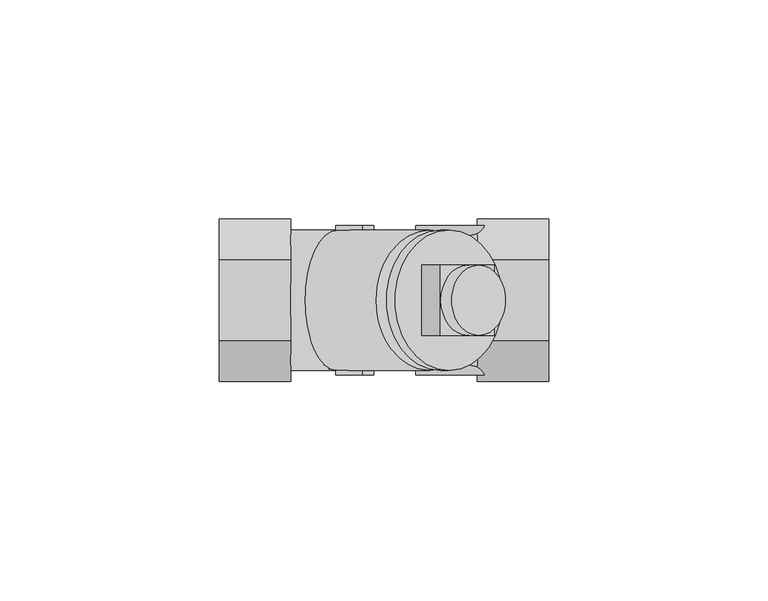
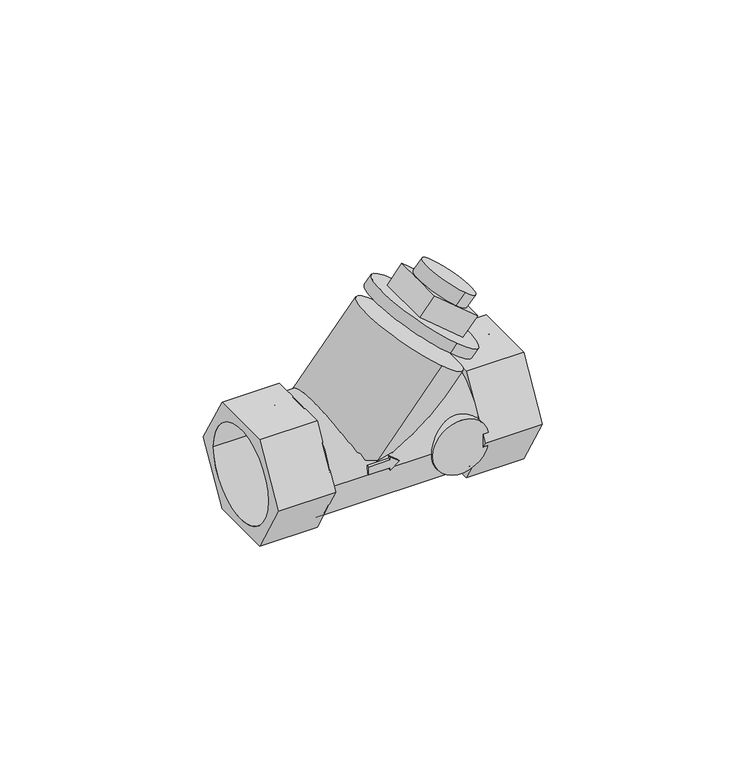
"""IFC4 building model written with IfcOpenShell, lengths in millimetres: valve geometry, 400_5-_KOMF_terugslagklep_PN_25_brons_DN15-50 : DN20 3/4''."""

import ifcopenshell
import ifcopenshell.guid

model = None  # the IFC model being written
_history = None  # IfcOwnerHistory: only IFC2X3 demands one
_inside = {}  # id of a spatial element -> (the spatial element, [elements in it])
_under = {}  # id of a project, library or spatial element -> (it, [spatial elements below it])
_declared = {}  # id of a project -> (the project, [libraries it declares])
_typed = {}  # id of a type object -> (the type object, [elements of that type])
_made_of = {}  # id of a material, layer set ... -> (it, [elements and type objects made of it])


def new_model(schema):
    """Start an empty IFC model of exactly this schema.

    Asked for "IFC4X3", IfcOpenShell would pick the latest addendum, in which some entities
    have other attributes; the version numbers below select the first issue.
    IFC2X3 requires an IfcOwnerHistory on every rooted entity: one is made here for all.
    """
    global model, _history
    if schema == "IFC4X3":
        model = ifcopenshell.file(schema_version=(4, 3, 0, 0))
    else:
        model = ifcopenshell.file(schema=schema)
    _inside.clear()
    _under.clear()
    _declared.clear()
    _typed.clear()
    _made_of.clear()
    _history = None
    if model.schema == "IFC2X3":
        org = make("IfcOrganization", Name="unknown")
        user = make(
            "IfcPersonAndOrganization",
            ThePerson=make("IfcPerson", FamilyName="unknown"),
            TheOrganization=org,
        )
        app = make(
            "IfcApplication",
            ApplicationDeveloper=org,
            Version="unknown",
            ApplicationFullName="unknown",
            ApplicationIdentifier="unknown",
        )
        _history = make(
            "IfcOwnerHistory",
            OwningUser=user,
            OwningApplication=app,
            ChangeAction="ADDED",
            CreationDate=0,
        )
    return model


def make(cls, **values):
    """One entity of the class cls with the attributes given. An attribute that is None is left unset."""
    return model.create_entity(
        cls, **{name: value for name, value in values.items() if value is not None}
    )


def rooted(cls, **values):
    """An entity with a GlobalId (a new one), such as an element, a storey or a relation."""
    return make(cls, GlobalId=ifcopenshell.guid.new(), OwnerHistory=_history, **values)


def si_unit(unit_type, name, prefix=None):
    """IfcSIUnit, for example si_unit("LENGTHUNIT", "METRE", prefix="MILLI")."""
    return make("IfcSIUnit", UnitType=unit_type, Prefix=prefix, Name=name)


def assignment(units):
    """IfcUnitAssignment: the units of a project."""
    return None if units is None else make("IfcUnitAssignment", Units=units)


def point(xyz):
    """IfcCartesianPoint."""
    return None if xyz is None else make("IfcCartesianPoint", Coordinates=xyz)


def direction(xyz):
    """IfcDirection."""
    return None if xyz is None else make("IfcDirection", DirectionRatios=xyz)


def frame(location, z_axis=None, x_axis=None):
    """IfcAxis2Placement3D, a coordinate frame: its origin and axes. An axis left out is left unset."""
    return make(
        "IfcAxis2Placement3D",
        Location=point(location),
        Axis=direction(z_axis),
        RefDirection=direction(x_axis),
    )


def frame_2d(location, x_axis=None):
    """IfcAxis2Placement2D, a coordinate frame in the plane: its origin and x axis."""
    return make(
        "IfcAxis2Placement2D", Location=point(location), RefDirection=direction(x_axis)
    )


def origin():
    """The frame at (0, 0, 0) with its axes left unset."""
    return frame((0.0, 0.0, 0.0))


def origin_2d():
    """The frame at (0, 0) in the plane with its x axis left unset."""
    return frame_2d((0.0, 0.0))


def place(relative_to, where):
    """IfcLocalPlacement: puts the frame where relative to a parent placement (None: the world)."""
    return make(
        "IfcLocalPlacement", PlacementRelTo=relative_to, RelativePlacement=where
    )


def context(
    kind, dimensions, precision=None, world=None, true_north=None, identifier=None
):
    """IfcGeometricRepresentationContext, for example the 3D "Model" context."""
    return make(
        "IfcGeometricRepresentationContext",
        ContextIdentifier=identifier,
        ContextType=kind,
        CoordinateSpaceDimension=dimensions,
        Precision=precision,
        WorldCoordinateSystem=world,
        TrueNorth=true_north,
    )


def project(units=None, contexts=None):
    """IfcProject with its units and contexts."""
    return rooted(
        "IfcProject",
        Name="project",
        RepresentationContexts=contexts,
        UnitsInContext=assignment(units),
    )


def spatial(cls, under=None, at=None, **own):
    """A site, building, storey or space (cls), placed at a placement, below another one or the project."""
    s = rooted(cls, ObjectPlacement=at, **own)
    if under is not None:
        _under.setdefault(under.id(), (under, []))[1].append(s)
    return s


def polyline(points):
    """IfcPolyline through the points."""
    return make("IfcPolyline", Points=[point(p) for p in points])


def circle_curve(where, radius):
    """IfcCircle in the frame where."""
    return make("IfcCircle", Position=where, Radius=radius)


def ellipse_curve(where, semi_axis1, semi_axis2):
    """IfcEllipse in the frame where."""
    return make(
        "IfcEllipse", Position=where, SemiAxis1=semi_axis1, SemiAxis2=semi_axis2
    )


def trimmed(basis, trim1, trim2, sense, master):
    """IfcTrimmedCurve: the piece of a basis curve between two trims."""
    return make(
        "IfcTrimmedCurve",
        BasisCurve=basis,
        Trim1=trim1,
        Trim2=trim2,
        SenseAgreement=sense,
        MasterRepresentation=master,
    )


def segment(curve, same_sense, transition):
    """IfcCompositeCurveSegment."""
    return make(
        "IfcCompositeCurveSegment",
        Transition=transition,
        SameSense=same_sense,
        ParentCurve=curve,
    )


def composite_curve(segments, self_intersect=None):
    """IfcCompositeCurve: segments joined end to end."""
    return make("IfcCompositeCurve", Segments=segments, SelfIntersect=self_intersect)


def outline(outer, holes=None, kind="AREA"):
    """IfcArbitraryClosedProfileDef: a profile drawn as a closed curve; with holes, ...WithVoids."""
    if holes is None:
        return make("IfcArbitraryClosedProfileDef", ProfileType=kind, OuterCurve=outer)
    return make(
        "IfcArbitraryProfileDefWithVoids",
        ProfileType=kind,
        OuterCurve=outer,
        InnerCurves=holes,
    )


def extrude(swept, where, along, depth):
    """IfcExtrudedAreaSolid: the profile swept, set in the frame where, extruded along a direction by depth."""
    return make(
        "IfcExtrudedAreaSolid",
        SweptArea=swept,
        Position=where,
        ExtrudedDirection=direction(along),
        Depth=depth,
    )


def shape(context_of_items, identifier, shape_type, items):
    """IfcShapeRepresentation: the items that make up one representation, for example the "Body"."""
    return make(
        "IfcShapeRepresentation",
        ContextOfItems=context_of_items,
        RepresentationIdentifier=identifier,
        RepresentationType=shape_type,
        Items=items,
    )


def source(mapping_origin, context_of_items, identifier, shape_type, items):
    """IfcRepresentationMap: a shape defined once, which mapped items show again and again."""
    return make(
        "IfcRepresentationMap",
        MappingOrigin=mapping_origin,
        MappedRepresentation=shape(context_of_items, identifier, shape_type, items),
    )


def transform(
    local_origin,
    x_axis=None,
    y_axis=None,
    z_axis=None,
    scale=None,
    scale2=None,
    scale3=None,
    uniform=True,
):
    """IfcCartesianTransformationOperator3D, or its non-uniform kind. x_axis, y_axis, z_axis: its Axis1, 2, 3."""
    if uniform:
        return make(
            "IfcCartesianTransformationOperator3D",
            Axis1=direction(x_axis),
            Axis2=direction(y_axis),
            LocalOrigin=point(local_origin),
            Scale=scale,
            Axis3=direction(z_axis),
        )
    return make(
        "IfcCartesianTransformationOperator3DnonUniform",
        Axis1=direction(x_axis),
        Axis2=direction(y_axis),
        LocalOrigin=point(local_origin),
        Scale=scale,
        Axis3=direction(z_axis),
        Scale2=scale2,
        Scale3=scale3,
    )


def mapped(mapping_source, mapping_target):
    """IfcMappedItem: shows the shape of a source again, moved by a transform."""
    return make(
        "IfcMappedItem", MappingSource=mapping_source, MappingTarget=mapping_target
    )


def made_of(thing, what):
    """Note that an element or type object is made of a material, layer set ...; save() writes the relation."""
    if what is not None:
        _made_of.setdefault(what.id(), (what, []))[1].append(thing)
    return thing


def element(
    cls,
    number,
    at=None,
    inside=None,
    cuts=None,
    type_object=None,
    material=None,
    context=None,
    identifier="Body",
    shape_type=None,
    held_by="IfcProductDefinitionShape",
    body=None,
    shapes=None,
    **own,
):
    """One element of the class cls, such as IfcWall. Its Tag is "e" and its number.

    at: its placement. inside: the storey or other place that contains it. cuts: it is an
    opening in that element (IfcRelVoidsElement). A single representation is given by context,
    identifier, shape_type and body (its items); several are given by shapes. held_by: the class
    of the entity that holds the representations. save() writes the other relations.
    """
    e = rooted(cls, Tag="e%d" % number, ObjectPlacement=at, **own)
    if body is not None:
        shapes = [shape(context, identifier, shape_type, body)]
    if shapes is not None:
        e.Representation = make(held_by, Representations=shapes)
    if inside is not None:
        _inside.setdefault(inside.id(), (inside, []))[1].append(e)
    if cuts is not None:
        rooted(
            "IfcRelVoidsElement", RelatingBuildingElement=cuts, RelatedOpeningElement=e
        )
    if type_object is not None:
        _typed.setdefault(type_object.id(), (type_object, []))[1].append(e)
    return made_of(e, material)


def aggregate(whole, parts):
    """IfcRelAggregates: a whole, such as a stair, and the parts it consists of."""
    return rooted("IfcRelAggregates", RelatingObject=whole, RelatedObjects=parts)


def save(model, path):
    """Write the relations noted so far, then the file.

    IfcRelAggregates (storeys below a building ...), IfcRelContainedInSpatialStructure (elements
    in a storey), IfcRelDefinesByType, IfcRelAssociatesMaterial and IfcRelDeclares: one each for
    every whole, place, type object, material and project.
    """
    for whole, parts in _under.values():
        aggregate(whole, parts)
    for where, things in _inside.values():
        rooted(
            "IfcRelContainedInSpatialStructure",
            RelatedElements=things,
            RelatingStructure=where,
        )
    for kind, things in _typed.values():
        rooted("IfcRelDefinesByType", RelatedObjects=things, RelatingType=kind)
    for what, things in _made_of.values():
        rooted("IfcRelAssociatesMaterial", RelatedObjects=things, RelatingMaterial=what)
    for by, libraries in _declared.values():
        rooted("IfcRelDeclares", RelatingContext=by, RelatedDefinitions=libraries)
    model.write(path)


def plane_surface(at):
    """IfcPlane: the flat surface through the origin of the frame at, square to its z axis."""
    return make("IfcPlane", Position=at)


def cylinder_surface(at, radius):
    """IfcCylindricalSurface: all points at the distance radius from the z axis of the frame at."""
    return make("IfcCylindricalSurface", Position=at, Radius=radius)


def revolved_surface(curve, axis_point, axis_direction):
    """IfcSurfaceOfRevolution: the curve turned about the line through axis_point along axis_direction."""
    return make(
        "IfcSurfaceOfRevolution",
        SweptCurve=make("IfcArbitraryOpenProfileDef", ProfileType="CURVE", Curve=curve),
        AxisPosition=make("IfcAxis1Placement", Location=point(axis_point), Axis=direction(axis_direction)),
    )


def advanced_brep(points, edges, surfaces, faces):
    """IfcAdvancedBrep: a solid bounded by faces that lie on surfaces and meet in shared edges.

    An edge is (start, end): straight between two places in points (the first is 0);
    or (start, end, curve); or (start, end, curve, False) where it runs against its curve.
    A face is (place in surfaces, loops), or (place, loops, False) where it looks against
    its surface's normal. A loop lists edges by number (the first is 1), with a minus sign
    where the edge is run from its end to its start. The first loop is the outer one.
    """
    corners = [point(p) for p in points]
    vertices = [make("IfcVertexPoint", VertexGeometry=c) for c in corners]
    made = []
    for start, end, *more in edges:
        made.append(
            make(
                "IfcEdgeCurve",
                EdgeStart=vertices[start],
                EdgeEnd=vertices[end],
                EdgeGeometry=more[0] if more else make("IfcPolyline", Points=[corners[start], corners[end]]),
                SameSense=more[1] if len(more) > 1 else True,
            )
        )
    hull = []
    for where, loops, *sense in faces:
        bounds = []
        for j, loop in enumerate(loops):
            ring = [make("IfcOrientedEdge", EdgeElement=made[abs(k) - 1], Orientation=k > 0) for k in loop]
            bounds.append(
                make(
                    "IfcFaceOuterBound" if j == 0 else "IfcFaceBound",
                    Bound=make("IfcEdgeLoop", EdgeList=ring),
                    Orientation=True,
                )
            )
        hull.append(make("IfcAdvancedFace", Bounds=bounds, FaceSurface=surfaces[where], SameSense=sense[0] if sense else True))
    return make("IfcAdvancedBrep", Outer=make("IfcClosedShell", CfsFaces=hull))


def valve_c4cabec5(model_context):
    return source(origin(), model_context, "Body", "SolidModel", [
        extrude(outline(composite_curve([segment(trimmed(circle_curve(origin_2d(), 16.0), [point((-16.0, 0.0))], [point((16.0, 0.0))], False, "CARTESIAN"), True, "CONTINUOUS"), segment(trimmed(circle_curve(origin_2d(), 16.0), [point((16.0, 0.0))], [point((-16.0, 0.0))], False, "CARTESIAN"), True, "CONTINUOUS")], self_intersect=False)), frame((-29.6929699, 0.0, 0.0), z_axis=(1.0, 0.0, 0.0), x_axis=(0.0, 1.0, 0.0)), (0.0, 0.0, 1.0), 42.3929669),
        extrude(outline(composite_curve([segment(trimmed(circle_curve(frame_2d((0.0, 6.699997)), 8.0), [point((0.0, -1.300003))], [point((0.0, 14.699997))], False, "CARTESIAN"), True, "CONTINUOUS"), segment(trimmed(circle_curve(frame_2d((0.0, 6.699997)), 8.0), [point((0.0, 14.699997))], [point((0.0, -1.300003))], False, "CARTESIAN"), True, "CONTINUOUS")], self_intersect=False)), frame((0.0, -17.0, 0.0), z_axis=(0.0, 1.0, 0.0), x_axis=(0.0, 0.0, 1.0)), (0.0, 0.0, 1.0), 34.0),
        advanced_brep(
        [(-29.6929699, -9.2376043, 16.0), (-29.6929699, -13.8564065, 8.0), (-29.6929699, -18.4752086, 0.0), (-29.6929699, -13.8564065, -8.0), (-29.6929699, -9.2376043, -16.0), (-29.6929699, 0.0, -16.0), (-29.6929699, 9.2376043, -16.0), (-29.6929699, 13.8564065, -8.0), (-29.6929699, 18.4752086, 0.0), (-29.6929699, 13.8564065, 8.0), (-29.6929699, 9.2376043, 16.0), (-29.6929699, 0.0, 16.0), (-29.6929699, 8.7735674, 8.600501), (-29.6929699, -8.7735674, 8.600501), (-46.000003, -9.2376043, 16.0), (-46.000003, 9.2376043, 16.0), (-46.000003, 18.4752086, 0.0), (-46.000003, 9.2376043, -16.0), (-46.000003, -9.2376043, -16.0), (-46.000003, -18.4752086, 0.0), (-46.000003, -13.45, 0.0), (-46.000003, 13.45, 0.0), (-31.700003, -13.45, 0.0), (-31.700003, 13.45, 0.0), (28.999997, -9.2376043, 16.0), (28.999997, -18.4752086, 0.0), (28.999997, -9.2376043, -16.0), (28.999997, 9.2376043, -16.0), (28.999997, 18.4752086, 0.0), (28.999997, 9.2376043, 16.0), (28.999997, 13.45, 0.0), (28.999997, -13.45, 0.0), (12.699997, 7.0996443, 16.0), (12.699997, 9.2376043, 16.0), (12.699997, 13.8564065, 8.0), (12.699997, 18.4752086, 0.0), (12.699997, 13.8564065, -8.0), (12.699997, 9.2376043, -16.0), (12.699997, 0.0, -16.0), (12.699997, -9.2376043, -16.0), (12.699997, -13.8564065, -8.0), (12.699997, -18.4752086, 0.0), (12.699997, -13.8564065, 8.0), (12.699997, -9.2376043, 16.0), (12.699997, -7.0996443, 16.0), (12.699997, -5.5982156, 14.9886618), (12.699997, 5.5982156, 14.9886618), (19.0210573, -9.2376043, 16.0), (13.1219877, -9.2376043, 16.0), (13.1219877, 9.2376043, 16.0), (19.0210573, 9.2376043, 16.0), (13.1219877, 6.4054791, 16.0), (13.1219877, -6.4054791, 16.0), (-19.4432919, -17.0, 3.1116273), (-19.4432919, -17.0, 0.829442), (-13.3015613, -17.0, 0.829442), (-13.3015613, -17.0, 0.0332575), (-10.8483948, -17.0, 1.9705347), (-13.3015613, -17.0, 3.9078118), (-13.3015613, -17.0, 3.1116273), (-19.4432919, 17.0, 3.1116273), (-13.3015613, 17.0, 3.1116273), (-13.3015613, 17.0, 3.9078118), (-10.8483948, 17.0, 1.9705347), (-13.3015613, 17.0, 0.0332575), (-13.3015613, 17.0, 0.829442), (-19.4432919, 17.0, 0.829442), (-19.4432919, -15.8744933, 3.1116273), (-19.4432919, -15.9911146, 0.829442), (-19.4432919, 15.9911146, 0.829442), (-19.4432919, 15.8744933, 3.1116273), (-18.7473074, -16.0, 0.829442), (-17.6645478, -15.9784863, 0.829442), (-13.3015613, -15.4465872, 0.829442), (-13.3015613, -15.9784863, 0.829442), (-13.3015613, 15.9784863, 0.829442), (-13.3015613, 15.4465872, 0.829442), (-17.6645478, 15.9784863, 0.829442), (-18.7473074, 16.0, 0.829442), (-13.3015613, -15.2991893, 0.0332575), (-13.3015613, -15.9999654, 0.0332575), (-13.3015613, 15.9999654, 0.0332575), (-13.3015613, 15.2991893, 0.0332575), (-10.8483948, -15.0905551, 1.9705347), (-10.8483948, -15.8781924, 1.9705347), (-10.8483948, 15.8781924, 1.9705347), (-10.8483948, 15.0905551, 1.9705347), (-12.4704582, -15.6661367, 3.2514858), (-13.3015613, -15.849006, 3.9078118), (-13.3015613, 15.849006, 3.9078118), (-12.4704582, 15.6661367, 3.2514858), (-13.3015613, -15.7697328, 3.1116273), (-13.3015613, 15.7697328, 3.1116273), (-16.8323266, -16.0, 3.1116273), (-16.8323266, 16.0, 3.1116273), (-19.4432919, -16.0, 0.0), (1.8903592, -16.0, 25.4244553), (1.7150024, -15.9983624, 25.5715972), (1.7150024, 15.9983624, 25.5715972), (1.8903592, 16.0, 25.4244553), (-19.4432919, 16.0, 0.0), (14.699997, -13.45, 0.0), (14.699997, 13.45, 0.0)],
        [
            (0, 1),
            (1, 2),
            (2, 3),
            (3, 4),
            (4, 5),
            (5, 6),
            (6, 7),
            (7, 8),
            (8, 9),
            (9, 10),
            (10, 11),
            (11, 0),
            (12, 13),
            (13, 12, ellipse_curve(frame((-29.6929699, 0.0, -12.2150905), z_axis=(-1.0, 0.0, 0.0), x_axis=(0.0, 0.0, 0.9999999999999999)), 24.8915812, 16.0)),
            (14, 15),
            (15, 16),
            (16, 17),
            (17, 18),
            (18, 19),
            (19, 14),
            (20, 21, circle_curve(frame((-46.000003, 0.0, 0.0), z_axis=(1.0, 0.0, 0.0), x_axis=(0.0, 1.0, 0.0)), 13.45)),
            (21, 20, circle_curve(frame((-46.000003, 0.0, 0.0), z_axis=(1.0, 0.0, 0.0), x_axis=(0.0, 1.0, 0.0)), 13.45)),
            (19, 2),
            (0, 14),
            (18, 4),
            (17, 6),
            (16, 8),
            (15, 10),
            (22, 23, circle_curve(frame((-31.700003, 0.0, 0.0), z_axis=(-1.0, 0.0, 0.0), x_axis=(0.0, 1.0, 0.0)), 13.45)),
            (23, 22, circle_curve(frame((-31.700003, 0.0, 0.0), z_axis=(-1.0, 0.0, 0.0), x_axis=(0.0, 1.0, 0.0)), 13.45)),
            (24, 25),
            (25, 26),
            (26, 27),
            (27, 28),
            (28, 29),
            (29, 24),
            (30, 31, circle_curve(frame((28.999997, 0.0, 0.0), z_axis=(-1.0, 0.0, 0.0), x_axis=(0.0, 1.0, 0.0)), 13.45)),
            (31, 30, circle_curve(frame((28.999997, 0.0, 0.0), z_axis=(-1.0, 0.0, 0.0), x_axis=(0.0, 1.0, 0.0)), 13.45)),
            (32, 33),
            (33, 34),
            (34, 35),
            (35, 36),
            (36, 37),
            (37, 38),
            (38, 39),
            (39, 40),
            (40, 41),
            (41, 42),
            (42, 43),
            (43, 44),
            (44, 45, ellipse_curve(frame((12.699997, 0.0, 38.30688), z_axis=(1.0, 0.0, 0.0), x_axis=(0.0, 0.0, 0.9999999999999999)), 24.8915812, 16.0)),
            (45, 46, ellipse_curve(frame((12.699997, 0.0, 38.30688), z_axis=(1.0, 0.0, 0.0), x_axis=(0.0, 0.0, 0.9999999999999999)), 24.8915812, 16.0)),
            (46, 32, ellipse_curve(frame((12.699997, 0.0, 38.30688), z_axis=(1.0, 0.0, 0.0), x_axis=(0.0, 0.0, 0.9999999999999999)), 24.8915812, 16.0)),
            (24, 47),
            (47, 48),
            (48, 43),
            (41, 25),
            (39, 26),
            (37, 27),
            (35, 28),
            (33, 49),
            (49, 50),
            (50, 29),
            (32, 51, ellipse_curve(frame((-6.0176978, 0.0, 16.0), z_axis=(0.0, 0.0, -1.0), x_axis=(1.0, 0.0, 0.0)), 20.8865166, 16.0)),
            (51, 52),
            (52, 44, ellipse_curve(frame((-6.0176978, 0.0, 16.0), z_axis=(0.0, 0.0, -1.0), x_axis=(1.0, 0.0, 0.0)), 20.8865166, 16.0)),
            (53, 54),
            (54, 55),
            (55, 56),
            (56, 57),
            (57, 58),
            (58, 59),
            (59, 53),
            (60, 61),
            (61, 62),
            (62, 63),
            (63, 64),
            (64, 65),
            (65, 66),
            (66, 60),
            (53, 67),
            (67, 68, ellipse_curve(frame((-19.4432919, 0.0, 0.0), z_axis=(1.0, 0.0, 0.0), x_axis=(0.0, 0.0, 0.9999999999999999)), 24.8915812, 16.0)),
            (68, 54),
            (66, 69),
            (69, 70, ellipse_curve(frame((-19.4432919, 0.0, 0.0), z_axis=(1.0, 0.0, 0.0), x_axis=(0.0, 0.0, 0.9999999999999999)), 24.8915812, 16.0)),
            (70, 60),
            (68, 71, ellipse_curve(frame((-18.7473074, 0.0, 0.829442), z_axis=(0.0, 0.0, 1.0), x_axis=(1.0, 0.0, 0.0)), 20.8865166, 16.0)),
            (71, 72, ellipse_curve(frame((-18.7473074, 0.0, 0.829442), z_axis=(0.0, 0.0, 1.0), x_axis=(1.0, 0.0, 0.0)), 20.8865166, 16.0)),
            (72, 73, ellipse_curve(frame((-18.7473074, 0.0, 0.829442), z_axis=(0.0, 0.0, 1.0), x_axis=(1.0, 0.0, 0.0)), 20.8865166, 16.0)),
            (73, 74),
            (74, 55),
            (65, 75),
            (75, 76),
            (76, 77, ellipse_curve(frame((-18.7473074, 0.0, 0.829442), z_axis=(0.0, 0.0, 1.0), x_axis=(1.0, 0.0, 0.0)), 20.8865166, 16.0)),
            (77, 78, ellipse_curve(frame((-18.7473074, 0.0, 0.829442), z_axis=(0.0, 0.0, 1.0), x_axis=(1.0, 0.0, 0.0)), 20.8865166, 16.0)),
            (78, 69, ellipse_curve(frame((-18.7473074, 0.0, 0.829442), z_axis=(0.0, 0.0, 1.0), x_axis=(1.0, 0.0, 0.0)), 20.8865166, 16.0)),
            (73, 79, ellipse_curve(frame((-13.3015613, 0.0, 7.3194295), z_axis=(1.0, 0.0, 0.0), x_axis=(0.0, 0.0, 0.9999999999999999)), 24.8915812, 16.0)),
            (79, 80),
            (80, 56),
            (64, 81),
            (81, 82),
            (82, 76, ellipse_curve(frame((-13.3015613, 0.0, 7.3194295), z_axis=(1.0, 0.0, 0.0), x_axis=(0.0, 0.0, 0.9999999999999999)), 24.8915812, 16.0)),
            (79, 83, ellipse_curve(frame((-31.4241631, 0.0, -14.2782463), z_axis=(-0.6197559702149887, 0.0, 0.7847945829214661), x_axis=(0.7847945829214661, 0.0, 0.6197559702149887)), 78.8892121, 16.0)),
            (83, 84),
            (84, 57),
            (63, 85),
            (85, 86),
            (86, 82, ellipse_curve(frame((-31.4241631, 0.0, -14.2782463), z_axis=(-0.6197559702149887, 0.0, 0.7847945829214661), x_axis=(0.7847945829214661, 0.0, 0.6197559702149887)), 78.8892121, 16.0)),
            (83, 87, ellipse_curve(frame((-15.0233325, 0.0, 5.2675026), z_axis=(-0.6197559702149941, 0.0, -0.784794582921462), x_axis=(0.7847945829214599, 0.0, -0.6197559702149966)), 16.0070593, 16.0)),
            (87, 88, ellipse_curve(frame((-15.0233325, 0.0, 5.2675026), z_axis=(-0.6197559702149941, 0.0, -0.784794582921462), x_axis=(0.7847945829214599, 0.0, -0.6197559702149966)), 16.0070593, 16.0)),
            (88, 58),
            (62, 89),
            (89, 90, ellipse_curve(frame((-15.0233325, 0.0, 5.2675026), z_axis=(-0.6197559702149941, 0.0, -0.784794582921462), x_axis=(0.7847945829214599, 0.0, -0.6197559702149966)), 16.0070593, 16.0)),
            (90, 86, ellipse_curve(frame((-15.0233325, 0.0, 5.2675026), z_axis=(-0.6197559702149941, 0.0, -0.784794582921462), x_axis=(0.7847945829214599, 0.0, -0.6197559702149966)), 16.0070593, 16.0)),
            (88, 91, ellipse_curve(frame((-13.3015613, 0.0, 7.3194295), z_axis=(1.0, 0.0, 0.0), x_axis=(0.0, 0.0, 0.9999999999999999)), 24.8915812, 16.0)),
            (91, 59),
            (61, 92),
            (92, 89, ellipse_curve(frame((-13.3015613, 0.0, 7.3194295), z_axis=(1.0, 0.0, 0.0), x_axis=(0.0, 0.0, 0.9999999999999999)), 24.8915812, 16.0)),
            (91, 93, ellipse_curve(frame((-16.8323266, 0.0, 3.1116273), z_axis=(0.0, 0.0, -1.0), x_axis=(1.0, 0.0, 0.0)), 20.8865166, 16.0)),
            (93, 67, ellipse_curve(frame((-16.8323266, 0.0, 3.1116273), z_axis=(0.0, 0.0, -1.0), x_axis=(1.0, 0.0, 0.0)), 20.8865166, 16.0)),
            (70, 94, ellipse_curve(frame((-16.8323266, 0.0, 3.1116273), z_axis=(0.0, 0.0, -1.0), x_axis=(1.0, 0.0, 0.0)), 20.8865166, 16.0)),
            (94, 92, ellipse_curve(frame((-16.8323266, 0.0, 3.1116273), z_axis=(0.0, 0.0, -1.0), x_axis=(1.0, 0.0, 0.0)), 20.8865166, 16.0)),
            (13, 95, circle_curve(frame((-19.4432919, 0.0, 0.0), z_axis=(0.6427876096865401, 0.0, 0.7660444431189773), x_axis=(0.0, -1.0, 0.0)), 16.0)),
            (95, 71),
            (93, 96),
            (96, 97, circle_curve(frame((1.8903592, 0.0, 25.4244553), z_axis=(-0.6427876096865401, 0.0, -0.7660444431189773), x_axis=(0.0, -1.0, 0.0)), 16.0)),
            (97, 98, circle_curve(frame((1.8903592, 0.0, 25.4244553), z_axis=(-0.6427876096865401, 0.0, -0.7660444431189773), x_axis=(0.0, -1.0, 0.0)), 16.0)),
            (98, 99, circle_curve(frame((1.8903592, 0.0, 25.4244553), z_axis=(-0.6427876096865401, 0.0, -0.7660444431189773), x_axis=(0.0, -1.0, 0.0)), 16.0)),
            (99, 94),
            (78, 100),
            (100, 12, circle_curve(frame((-19.4432919, 0.0, 0.0), z_axis=(0.6427876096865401, 0.0, 0.7660444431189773), x_axis=(0.0, -1.0, 0.0)), 16.0)),
            (95, 100, circle_curve(frame((-19.4432919, 0.0, 0.0), z_axis=(0.6427876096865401, 0.0, 0.7660444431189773), x_axis=(0.0, -1.0, 0.0)), 16.0)),
            (99, 51, circle_curve(frame((1.8903592, 0.0, 25.4244553), z_axis=(-0.6427876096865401, 0.0, -0.7660444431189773), x_axis=(0.0, -1.0, 0.0)), 16.0)),
            (52, 96, circle_curve(frame((1.8903592, 0.0, 25.4244553), z_axis=(-0.6427876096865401, 0.0, -0.7660444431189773), x_axis=(0.0, -1.0, 0.0)), 16.0)),
            (23, 21),
            (20, 22),
            (101, 102, circle_curve(frame((14.699997, 0.0, 0.0), z_axis=(1.0, 0.0, 0.0), x_axis=(0.0, 1.0, 0.0)), 13.45)),
            (102, 101, circle_curve(frame((14.699997, 0.0, 0.0), z_axis=(1.0, 0.0, 0.0), x_axis=(0.0, 1.0, 0.0)), 13.45)),
            (101, 31),
            (30, 102),
        ],
        [
            plane_surface(frame((-29.6929699, -18.4752086, 0.0), z_axis=(1.0, 0.0, 0.0), x_axis=(0.0, -0.4999999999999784, -0.8660254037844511))),
            plane_surface(frame((-46.000003, -18.4752086, 0.0), z_axis=(-1.0, 0.0, 0.0), x_axis=(0.0, 0.4999999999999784, 0.8660254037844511))),
            plane_surface(frame((-29.6929699, -9.2376043, 16.0), z_axis=(0.0, -0.8660254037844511, 0.4999999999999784), x_axis=(-1.0, 0.0, 0.0))),
            plane_surface(frame((-29.6929699, -18.4752086, 0.0), z_axis=(0.0, -0.8660254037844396, -0.49999999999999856), x_axis=(-1.0, 0.0, 0.0))),
            plane_surface(frame((-29.6929699, -9.2376043, -16.0), z_axis=(0.0, 0.0, -1.0), x_axis=(-1.0, 0.0, 0.0))),
            plane_surface(frame((-29.6929699, 9.2376043, -16.0), z_axis=(0.0, 0.8660254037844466, -0.4999999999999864), x_axis=(-1.0, 0.0, 0.0))),
            plane_surface(frame((-29.6929699, 18.4752086, 0.0), z_axis=(0.0, 0.8660254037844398, 0.499999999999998), x_axis=(-1.0, 0.0, 0.0))),
            plane_surface(frame((-29.6929699, 9.2376043, 16.0), z_axis=(0.0, 0.0, 1.0), x_axis=(-1.0, 0.0, 0.0))),
            plane_surface(frame((-31.700003, 13.45, 0.0), z_axis=(-1.0, 0.0, 0.0), x_axis=(0.0, 0.0, 1.0))),
            plane_surface(frame((28.999997, -18.4752086, 0.0), z_axis=(1.0, 0.0, 0.0), x_axis=(0.0, -0.49999999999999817, -0.8660254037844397))),
            plane_surface(frame((12.699997, -18.4752086, 0.0), z_axis=(-1.0, 0.0, 0.0), x_axis=(0.0, 0.49999999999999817, 0.8660254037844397))),
            plane_surface(frame((28.999997, -9.2376043, 16.0), z_axis=(0.0, -0.8660254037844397, 0.49999999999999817), x_axis=(-1.0, 0.0, 0.0))),
            plane_surface(frame((28.999997, -18.4752086, 0.0), z_axis=(0.0, -0.8660254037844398, -0.499999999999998), x_axis=(-1.0, 0.0, 0.0))),
            plane_surface(frame((28.999997, -9.2376043, -16.0), z_axis=(0.0, 0.0, -1.0), x_axis=(-1.0, 0.0, 0.0))),
            plane_surface(frame((28.999997, 9.2376043, -16.0), z_axis=(0.0, 0.8660254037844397, -0.49999999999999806), x_axis=(-1.0, 0.0, 0.0))),
            plane_surface(frame((28.999997, 18.4752086, 0.0), z_axis=(0.0, 0.8660254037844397, 0.49999999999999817), x_axis=(-1.0, 0.0, 0.0))),
            plane_surface(frame((28.999997, 9.2376043, 16.0), z_axis=(0.0, 0.0, 1.0), x_axis=(-1.0, 0.0, 0.0))),
            plane_surface(frame((-19.4432919, -17.0, 0.829442), z_axis=(0.0, -1.0, 0.0), x_axis=(0.0, 0.0, -1.0))),
            plane_surface(frame((-19.4432919, 17.0, 0.829442), z_axis=(0.0, 1.0, 0.0), x_axis=(0.0, 0.0, 1.0))),
            plane_surface(frame((-19.4432919, -17.0, 3.1116273), z_axis=(-1.0, 0.0, 0.0), x_axis=(0.0, 1.0, 0.0))),
            plane_surface(frame((-19.4432919, -17.0, 0.829442), z_axis=(0.0, 0.0, -1.0), x_axis=(0.0, 1.0, 0.0))),
            plane_surface(frame((-13.3015613, -17.0, 0.829442), z_axis=(-1.0, 0.0, 0.0), x_axis=(0.0, 1.0, 0.0))),
            plane_surface(frame((-13.3015613, -17.0, 0.0332575), z_axis=(0.6197559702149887, 0.0, -0.7847945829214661), x_axis=(0.0, 1.0, 0.0))),
            plane_surface(frame((-10.8483948, -17.0, 1.9705347), z_axis=(0.6197559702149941, 0.0, 0.784794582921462), x_axis=(0.0, 1.0, 0.0))),
            plane_surface(frame((-13.3015613, -17.0, 3.9078118), z_axis=(-1.0, 0.0, 0.0), x_axis=(0.0, 1.0, 0.0))),
            plane_surface(frame((-13.3015613, -17.0, 3.1116273), z_axis=(0.0, 0.0, 1.0), x_axis=(0.0, 1.0, 0.0))),
            cylinder_surface(frame((-19.4432919, 0.0, 0.0), z_axis=(0.6427876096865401, 0.0, 0.7660444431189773), x_axis=(0.0, -1.0, 0.0)), 16.0),
            plane_surface(frame((-19.4432919, -16.0, 0.0), z_axis=(-0.6427876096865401, 0.0, -0.7660444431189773), x_axis=(-0.7660444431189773, 0.0, 0.6427876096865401))),
            revolved_surface(polyline([(-31.700003, 13.45, 0.0), (-46.000003, 13.45, 0.0)]), (-46.000003, 0.0, 0.0), (1.0, 0.0, 0.0)),
            plane_surface(frame((14.699997, 13.45, 0.0), z_axis=(1.0, 0.0, 0.0), x_axis=(0.0, 0.0, -1.0))),
            revolved_surface(polyline([(28.999997, 13.45, 0.0), (14.699997, 13.45, 0.0)]), (14.699997, 0.0, 0.0), (1.0, 0.0, 0.0)),
            plane_surface(frame((1.8903592, -16.0, 25.4244553), z_axis=(0.6427876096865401, 0.0, 0.7660444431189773), x_axis=(0.7660444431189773, 0.0, -0.6427876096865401))),
        ],
        [
            (0, [[1, 2, 3, 4, 5, 6, 7, 8, 9, 10, 11, 12], [13, 14]]),
            (1, [[15, 16, 17, 18, 19, 20], [21, 22]]),
            (2, [[-20, 23, -2, -1, 24]]),
            (3, [[-19, 25, -4, -3, -23]]),
            (4, [[-18, 26, -6, -5, -25]]),
            (5, [[-17, 27, -8, -7, -26]]),
            (6, [[-16, 28, -10, -9, -27]]),
            (7, [[-15, -24, -12, -11, -28]]),
            (8, [[29, 30]]),
            (9, [[31, 32, 33, 34, 35, 36], [37, 38]]),
            (10, [[39, 40, 41, 42, 43, 44, 45, 46, 47, 48, 49, 50, 51, 52, 53]]),
            (11, [[-31, 54, 55, 56, -49, -48, 57]]),
            (12, [[-32, -57, -47, -46, 58]]),
            (13, [[-33, -58, -45, -44, 59]]),
            (14, [[-34, -59, -43, -42, 60]]),
            (15, [[-35, -60, -41, -40, 61, 62, 63]]),
            (16, [[-36, -63, -62, -61, -39, 64, 65, 66, -50, -56, -55, -54]]),
            (17, [[67, 68, 69, 70, 71, 72, 73]]),
            (18, [[74, 75, 76, 77, 78, 79, 80]]),
            (19, [[-67, 81, 82, 83]]),
            (19, [[-80, 84, 85, 86]]),
            (20, [[-68, -83, 87, 88, 89, 90, 91]]),
            (20, [[-79, 92, 93, 94, 95, 96, -84]]),
            (21, [[-69, -91, -90, 97, 98, 99]]),
            (21, [[-78, 100, 101, 102, -93, -92]]),
            (22, [[-70, -99, -98, 103, 104, 105]]),
            (22, [[-77, 106, 107, 108, -101, -100]]),
            (23, [[-71, -105, -104, 109, 110, 111]]),
            (23, [[-76, 112, 113, 114, -107, -106]]),
            (24, [[-72, -111, 115, 116]]),
            (24, [[-75, 117, 118, -112]]),
            (25, [[-73, -116, 119, 120, -81]]),
            (25, [[-74, -86, 121, 122, -117]]),
            (26, [[123, 124, -87, -82, -120, 125, 126, 127, 128, 129, -121, -85, -96, 130, 131, -14]]),
            (26, [[132, -130, -95, -94, -102, -108, -114, -113, -118, -122, -129, 133, -64, -53, -52, -51, -66, 134, -125, -119, -115, -110, -109, -103, -97, -89, -88, -124]]),
            (27, [[-132, -123, -13, -131]]),
            (28, [[-30, 135, -21, 136]]),
            (28, [[-29, -136, -22, -135]]),
            (29, [[137, 138]]),
            (30, [[-137, 139, -37, 140]]),
            (30, [[-138, -140, -38, -139]]),
            (31, [[-134, -65, -133, -128, -127, -126]]),
        ],
    ),
        advanced_brep(
        [(16.6240023, 0.0, 30.5375369), (16.6240023, 8.0, 30.5375369), (10.4956468, 8.0, 35.6798378), (10.4956468, -8.0, 35.6798378), (16.6240023, -8.0, 30.5375369), (4.3672912, 8.0, 40.8221386), (4.3672912, 0.0, 40.8221386), (4.3672912, -8.0, 40.8221386), (0.1410496, 8.0, 35.7854999), (0.1410496, -8.0, 35.7854999), (12.3977607, -8.0, 25.5008982), (12.3977607, 8.0, 25.5008982), (6.2694051, -16.0, 30.6431991), (6.2694051, 16.0, 30.6431991), (4.3277126, -16.0, 28.3291801), (4.3277126, 16.0, 28.3291801), (13.0630192, 8.0, 38.739513), (13.0630192, -8.0, 38.739513)],
        [
            (0, 1),
            (1, 2),
            (2, 0, circle_curve(frame((10.4956468, 0.0, 35.6798378), z_axis=(-0.6427876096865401, 0.0, -0.7660444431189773), x_axis=(0.0, -1.0, 0.0)), 8.0)),
            (3, 4),
            (4, 0),
            (0, 3, circle_curve(frame((10.4956468, 0.0, 35.6798378), z_axis=(-0.6427876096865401, 0.0, -0.7660444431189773), x_axis=(0.0, -1.0, 0.0)), 8.0)),
            (5, 6),
            (6, 2, circle_curve(frame((10.4956468, 0.0, 35.6798378), z_axis=(-0.6427876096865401, 0.0, -0.7660444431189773), x_axis=(0.0, -1.0, 0.0)), 8.0)),
            (2, 5),
            (6, 7),
            (7, 3),
            (3, 6, circle_curve(frame((10.4956468, 0.0, 35.6798378), z_axis=(-0.6427876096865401, 0.0, -0.7660444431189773), x_axis=(0.0, -1.0, 0.0)), 8.0)),
            (5, 8),
            (8, 9),
            (9, 7),
            (9, 10),
            (10, 4),
            (10, 11),
            (11, 1),
            (11, 8),
            (12, 13, circle_curve(frame((6.2694051, 0.0, 30.6431991), z_axis=(0.64278760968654, 0.0, 0.7660444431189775), x_axis=(0.0, -1.0, 0.0)), 16.0)),
            (13, 12, circle_curve(frame((6.2694051, 0.0, 30.6431991), z_axis=(0.64278760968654, 0.0, 0.7660444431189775), x_axis=(0.0, -1.0, 0.0)), 16.0)),
            (14, 15, circle_curve(frame((4.3277126, 0.0, 28.3291801), z_axis=(0.64278760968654, 0.0, 0.7660444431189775), x_axis=(0.0, -1.0, 0.0)), 16.0)),
            (15, 13),
            (12, 14),
            (15, 14, circle_curve(frame((4.3277126, 0.0, 28.3291801), z_axis=(0.64278760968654, 0.0, 0.7660444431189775), x_axis=(0.0, -1.0, 0.0)), 16.0)),
            (16, 17, circle_curve(frame((13.0630192, 0.0, 38.739513), z_axis=(0.6427876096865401, 0.0, 0.7660444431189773), x_axis=(0.0, -1.0, 0.0)), 8.0)),
            (17, 16, circle_curve(frame((13.0630192, 0.0, 38.739513), z_axis=(0.6427876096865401, 0.0, 0.7660444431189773), x_axis=(0.0, -1.0, 0.0)), 8.0)),
            (16, 2),
            (3, 17),
        ],
        [
            plane_surface(frame((4.3672912, -8.0, 40.8221386), z_axis=(0.6427876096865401, 0.0, 0.7660444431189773), x_axis=(0.0, -1.0, 0.0))),
            plane_surface(frame((4.3672912, 8.0, 40.8221386), z_axis=(-0.7660444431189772, 0.0, 0.6427876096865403), x_axis=(-0.6427876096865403, 0.0, -0.7660444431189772))),
            plane_surface(frame((4.3672912, -8.0, 40.8221386), z_axis=(0.0, -1.0, 0.0), x_axis=(-0.6427876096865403, 0.0, -0.7660444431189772))),
            plane_surface(frame((16.6240023, -8.0, 30.5375369), z_axis=(0.7660444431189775, 0.0, -0.6427876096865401), x_axis=(-0.6427876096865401, 0.0, -0.7660444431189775))),
            plane_surface(frame((16.6240023, 8.0, 30.5375369), z_axis=(0.0, 1.0, 0.0), x_axis=(-0.6427876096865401, 0.0, -0.7660444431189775))),
            plane_surface(frame((6.2694051, -16.0, 30.6431991), z_axis=(0.6427876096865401, 0.0, 0.7660444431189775), x_axis=(0.7660444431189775, 0.0, -0.6427876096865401))),
            cylinder_surface(frame((4.3277126, 0.0, 28.3291801), z_axis=(0.64278760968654, 0.0, 0.7660444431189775), x_axis=(0.0, -1.0, 0.0)), 16.0),
            plane_surface(frame((13.0630192, -8.0, 38.739513), z_axis=(0.6427876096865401, 0.0, 0.7660444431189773), x_axis=(0.7660444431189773, 0.0, -0.6427876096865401))),
            cylinder_surface(frame((10.4956468, 0.0, 35.6798378), z_axis=(0.6427876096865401, 0.0, 0.7660444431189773), x_axis=(0.0, -1.0, 0.0)), 8.0),
            plane_surface(frame((4.3277126, -16.0, 28.3291801), z_axis=(-0.6427876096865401, 0.0, -0.7660444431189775), x_axis=(-0.7660444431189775, 0.0, 0.6427876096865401))),
        ],
        [
            (0, [[1, 2, 3]]),
            (0, [[4, 5, 6]]),
            (0, [[7, 8, 9]]),
            (0, [[10, 11, 12]]),
            (1, [[13, 14, 15, -10, -7]]),
            (2, [[-15, 16, 17, -4, -11]]),
            (3, [[-17, 18, 19, -1, -5]]),
            (4, [[-13, -9, -2, -19, 20]]),
            (5, [[21, 22], [-14, -20, -18, -16]]),
            (6, [[23, 24, -21, 25]]),
            (6, [[26, -25, -22, -24]]),
            (7, [[27, 28]]),
            (8, [[-27, 29, -8, -12, 30]]),
            (8, [[-28, -30, -6, -3, -29]]),
            (9, [[-26, -23]]),
        ],
    ),
    ])


if __name__ == "__main__":
    model = new_model("IFC4")
    model_context = context("Model", 3, world=origin())
    ifc_project = project(units=[si_unit("LENGTHUNIT", "METRE", prefix="MILLI")], contexts=[model_context])
    site = spatial("IfcSite", under=ifc_project)
    building = spatial("IfcBuilding", under=site)
    placement = place(None, origin())
    valve_shape = valve_c4cabec5(model_context)
    element("IfcValve", 1, ObjectType="400_5-_KOMF_terugslagklep_PN_25_brons_DN15-50 : DN20 3/4''", at=placement, inside=building, context=model_context, shape_type="MappedRepresentation", body=[
        mapped(valve_shape, transform((0.0, 0.0, 0.0), x_axis=(1.0, 0.0, 0.0), y_axis=(0.0, 1.0, 0.0), z_axis=(0.0, 0.0, 1.0))),
    ])
    save(model, "model.ifc")
